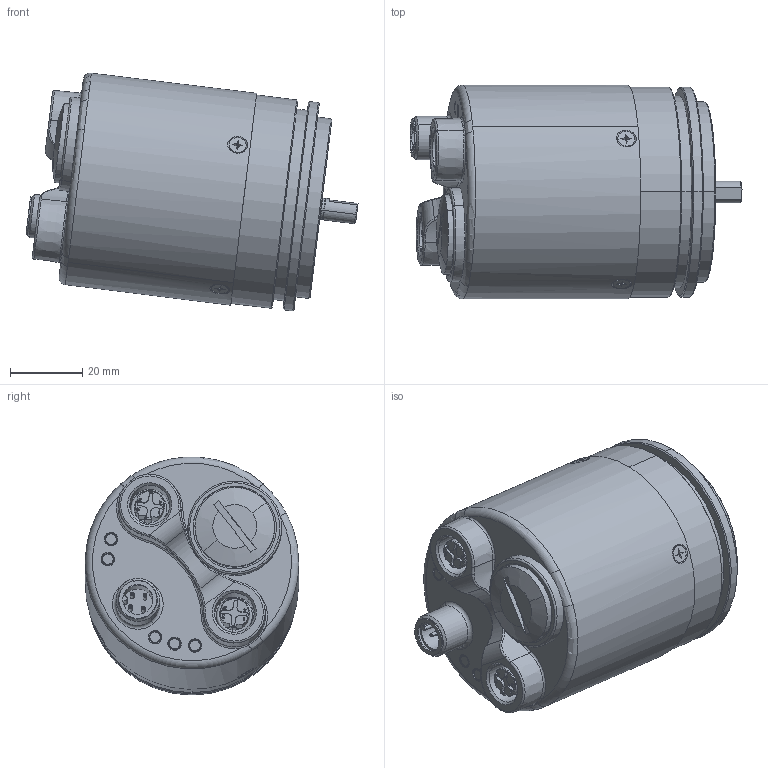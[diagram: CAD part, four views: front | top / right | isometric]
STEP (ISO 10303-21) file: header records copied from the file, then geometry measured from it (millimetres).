
FILE_DESCRIPTION (( 'STEP AP203' ), '1' );
FILE_NAME ('8.F5868.21AN.A222.STEP', '2017-01-11T13:11:26', ( 'LauferA' ), ( 'Microsoft' ), 'SwSTEP 2.0', 'SolidWorks 2013', '' );
FILE_SCHEMA (( 'CONFIG_CONTROL_DESIGN' ));
Length unit declared in the file: millimetre
Products named in the file (1): 8.F5868.21AN.A222
Bounding box: 91.71 x 59 x 65.74 mm (x, y, z)
Volume: 90034.7 mm3; surface area: 51810.6 mm2
Topology: 19 solids, 23 shells, 2816 faces, 7287 edges, 4486 vertices
Faces by surface type: plane 1019, cylinder 1009, bspline 285, cone 276, torus 191, sphere 36
Entity records: 93147 total; most frequent: CARTESIAN_POINT 25429, ORIENTED_EDGE 14408, DIRECTION 14198, EDGE_CURVE 7204, AXIS2_PLACEMENT_3D 5249, VERTEX_POINT 4486, VECTOR 3700, LINE 3700
